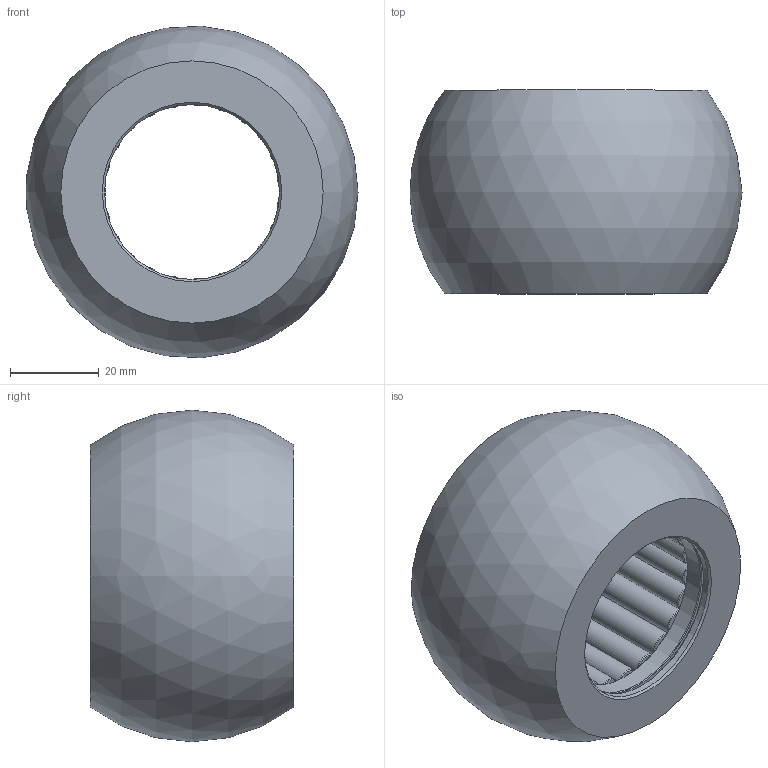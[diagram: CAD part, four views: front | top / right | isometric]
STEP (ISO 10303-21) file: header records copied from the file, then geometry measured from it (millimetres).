
FILE_DESCRIPTION(('STEP AP214'),'1');
FILE_NAME('C:/Projets/Serie 15.xx.xx/15.xx.39.step','2011-11-14T14:42:01',(' '),(' '),'Spatial InterOp 3D',' ',' ');
FILE_SCHEMA(('automotive_design'));
Length unit declared in the file: metre
Products named in the file (27): rotule ; frette; aiguille ; @408
Bounding box: 75 x 46 x 74.89 mm (x, y, z)
Volume: 112197.4 mm3; surface area: 59427.6 mm2
Topology: 27 solids, 27 shells, 339 faces, 643 edges, 408 vertices
Faces by surface type: cylinder 126, cone 108, plane 104, sphere 1
Full cylindrical faces by diameter (mm): 2.8 x46, 3.5 x46, 6 x23, 39.5 x2, 39.9 x2, 50.1 x2, 51 x1, 52 x2, 59 x2
Entity records: 10332 total; most frequent: DIRECTION 1456, CARTESIAN_POINT 1090, AXIS2_PLACEMENT_3D 728, EDGE_LOOP 724, ORIENTED_EDGE 724, FACE_OUTER_BOUND 466, EDGE_CURVE 362, VERTEX_POINT 362
